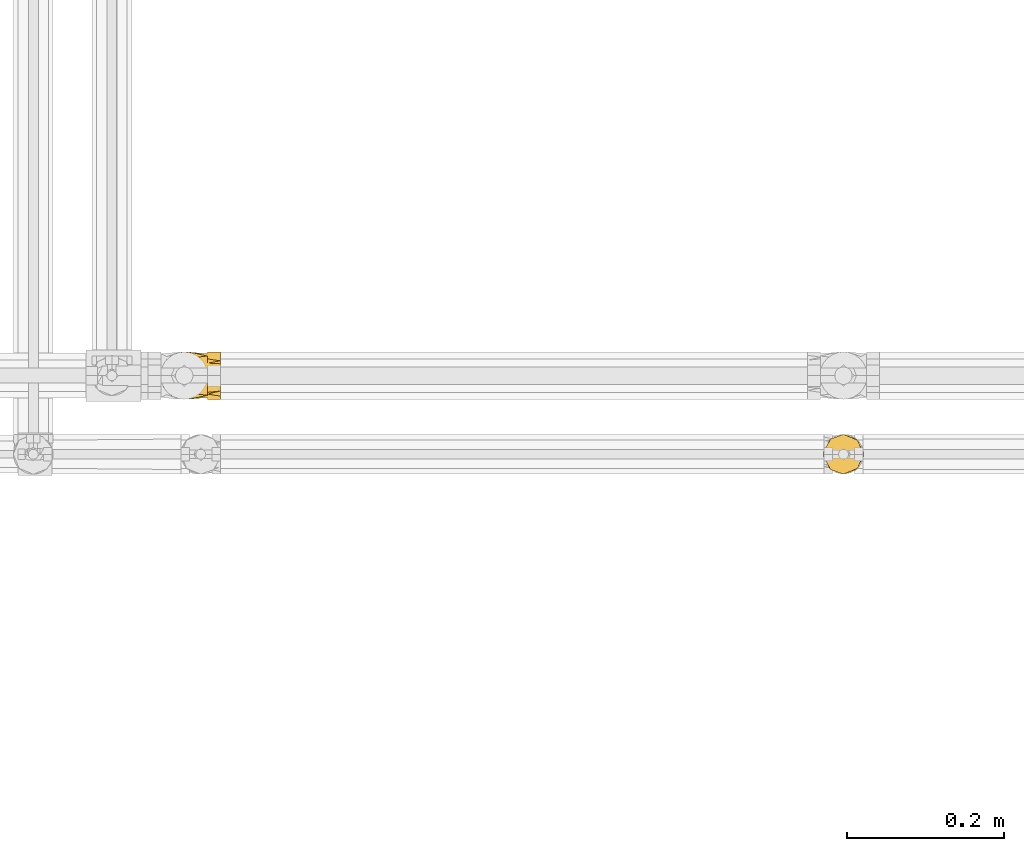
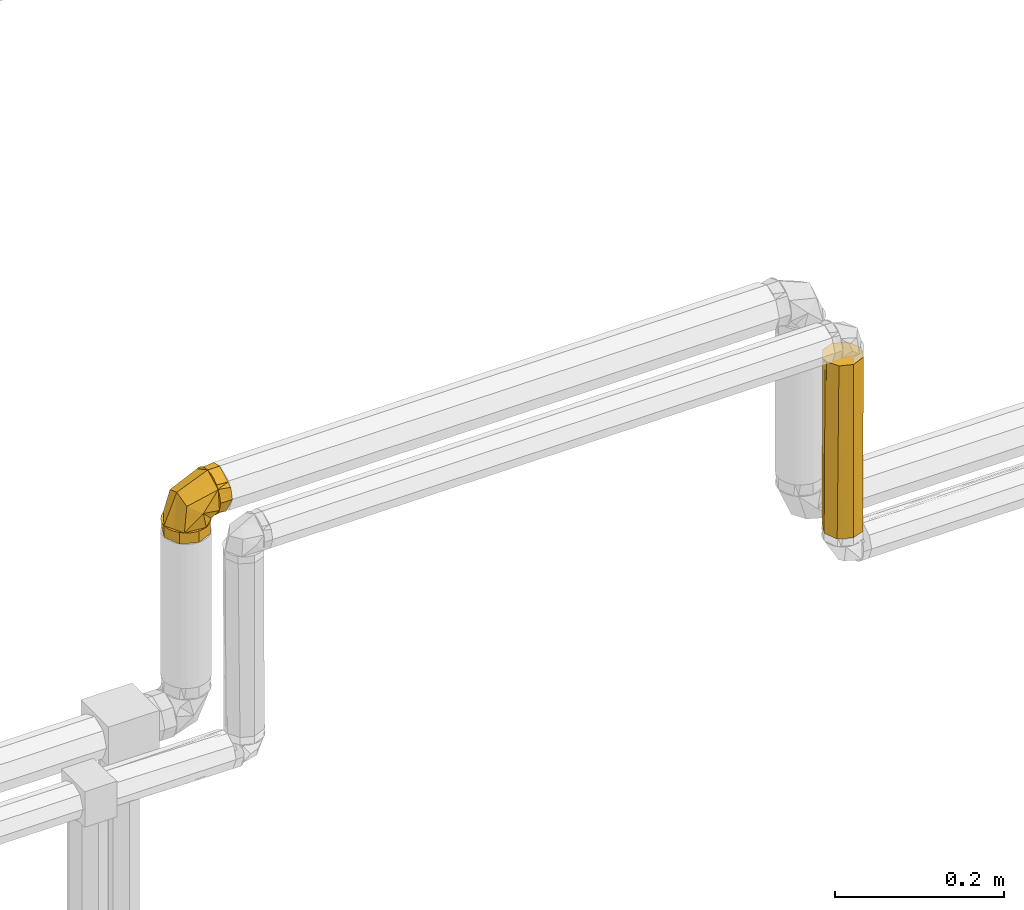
# One storey, part 206 of 652: 2 coverings.
"""IFC2X3 building model written with IfcOpenShell, lengths in millimetres."""

from ifc_helpers import new_model, entity, si_unit, converted_unit, direction, frame, origin, place, context, subcontext, project, spatial, face_set, faceted_brep, surface_model, material, type_object, element, save


model = new_model("IFC2X3")

# Units and contexts
model_context = context("Model", 3, precision=0.01, world=frame((0.0, 0.0, 308426.39999999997)), true_north=direction((6.123233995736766e-17, 1.0)))
plan_context = context("Plan", 3, precision=0.01, world=frame((0.0, 0.0, 308426.39999999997)), true_north=direction((6.123233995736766e-17, 1.0)))
body_context = subcontext(model_context, "Body", "Model", "MODEL_VIEW")
ifc_project = project(units=[si_unit("LENGTHUNIT", "METRE", prefix="MILLI"), si_unit("AREAUNIT", "SQUARE_METRE"), si_unit("VOLUMEUNIT", "CUBIC_METRE"), converted_unit("PLANEANGLEUNIT", "DEGREE", entity("IfcPlaneAngleMeasure", 0.017453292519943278), si_unit("PLANEANGLEUNIT", "RADIAN"), dimensions=[0, 0, 0, 0, 0, 0, 0])], contexts=[model_context, plan_context])

# Site, building, storey
site_placement = place(None, origin())
site = spatial("IfcSite", under=ifc_project, at=site_placement, Name="Default", CompositionType="ELEMENT")
building_placement = place(site_placement, origin())
building = spatial("IfcBuilding", under=site, at=building_placement, CompositionType="ELEMENT")
storey_placement = place(building_placement, frame((0.0, 0.0, 1730.6999999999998)))
storey = spatial("IfcBuildingStorey", under=building, at=storey_placement, Name="EG_Produktion_FFB", CompositionType="ELEMENT", Elevation=1730.6999999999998)

# Coverings
ifc_material = material(Name="Dämmung - Armaflex-Schlauch")
covering_type = type_object("IfcCoveringType", Name="Rohrdämmung außen:Armaflex-Schlauch", PredefinedType="INSULATION")
covering_1_placement = place(storey_placement, frame((38836.006477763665, 69788.05472776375, 3923.3717277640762)))
element("IfcCovering", 1, at=covering_1_placement, inside=storey, type_object=covering_type, material=ifc_material, Name="Rohrdämmung außen:Armaflex-Schlauch", ObjectType="Rohrdämmung außen:Armaflex-Schlauch", PredefinedType="INSULATION", context=body_context, shape_type="Brep", body=[
    faceted_brep([(43.25109979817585, 7.535416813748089, 1.595272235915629), (39.17464290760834, 6.05038066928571, 1.595272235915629), (35.09818601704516, 4.565344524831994, 1.595272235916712), (31.02172912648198, 3.0803083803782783, 1.595272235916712), (26.94527223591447, 1.5952722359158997, 1.595272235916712), (21.34444376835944, 3.915211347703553, 1.595272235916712), (17.982693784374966, 5.307693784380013, 1.5952722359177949), (13.501404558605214, 7.163904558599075, 1.5952722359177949), (9.020115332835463, 9.020115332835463, 1.5952722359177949), (7.1639045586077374, 13.501404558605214, 1.5952722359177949), (5.307693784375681, 17.982693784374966, 1.5952722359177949), (3.4514830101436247, 22.463983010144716, 1.5952722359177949), (1.5952722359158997, 26.94527223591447, 1.5952722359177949), (3.4514830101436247, 31.42656146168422, 1.5952722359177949), (5.307693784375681, 35.90785068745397, 1.5952722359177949), (7.1639045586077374, 40.38913991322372, 1.5952722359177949), (9.020115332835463, 44.87042913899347, 1.5952722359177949), (13.501404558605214, 46.7266399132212, 1.5952722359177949), (17.982693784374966, 48.582850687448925, 1.5952722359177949), (22.463983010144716, 50.43906146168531, 1.595272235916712), (26.94527223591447, 52.29527223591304, 1.595272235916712), (32.67227201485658, 50.20895024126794, 1.595272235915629), (38.3992717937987, 48.122628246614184, 1.595272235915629), (43.25109979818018, 46.35512765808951, 1.595272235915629), (47.58168601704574, 38.84516070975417, 1.595272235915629), (51.9122722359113, 31.33519376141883, 1.595272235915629), (51.9122722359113, 22.555350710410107, 1.595272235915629), (47.58168601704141, 15.045383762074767, 1.595272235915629), (10.639444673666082, 46.355127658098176, 251.66127223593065), (6.308858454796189, 38.84516070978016, 251.66127223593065), (1.9782722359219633, 31.335193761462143, 251.66127223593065), (1.9782722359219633, 22.555350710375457, 251.66127223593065), (6.308858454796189, 15.045383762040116, 251.66127223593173), (10.639444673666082, 7.535416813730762, 251.66127223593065), (15.491272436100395, 5.767916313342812, 251.66127223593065), (21.21827233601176, 3.681594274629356, 251.66127223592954), (26.94527223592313, 1.5952722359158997, 251.66127223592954), (31.42656146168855, 3.4514830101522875, 251.66127223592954), (35.9078506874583, 5.307693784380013, 251.66127223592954), (40.38913991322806, 7.1639045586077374, 251.66127223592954), (44.870429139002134, 9.020115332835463, 251.66127223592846), (46.72663991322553, 13.501404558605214, 251.66127223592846), (48.58285068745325, 17.982693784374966, 251.66127223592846), (50.43906146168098, 22.463983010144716, 251.66127223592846), (52.2952722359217, 26.94527223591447, 251.66127223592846), (50.43906146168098, 31.42656146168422, 251.66127223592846), (48.58285068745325, 35.90785068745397, 251.66127223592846), (46.7266399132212, 40.38913991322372, 251.66127223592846), (44.870429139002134, 44.87042913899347, 251.66127223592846), (40.38913991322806, 46.7266399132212, 251.66127223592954), (35.9078506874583, 48.582850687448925, 251.66127223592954), (31.42656146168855, 50.43906146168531, 251.66127223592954), (26.94527223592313, 52.29527223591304, 251.66127223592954), (21.218272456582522, 50.20895024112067, 251.66127223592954), (18.792358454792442, 49.32519994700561, 251.66127223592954), (14.715901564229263, 47.84016380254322, 251.66127223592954), (1.691203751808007, 24.741973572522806, 251.37420375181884), (1.5952722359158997, 26.94527223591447, 251.27827223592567), (1.691203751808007, 29.14857089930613, 251.37420375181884), (52.19934072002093, 29.148570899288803, 1.882340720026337), (52.29527223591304, 26.94527223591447, 1.9782722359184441), (52.19934072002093, 24.741973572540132, 1.882340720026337)], [[[0, 1, 2, 3, 4, 5, 6, 7, 8, 9, 10, 11, 12, 13, 14, 15, 16, 17, 18, 19, 20, 21, 22, 23, 24, 25, 26, 27]], [[28, 29, 30, 31, 32, 33, 34, 35, 36, 37, 38, 39, 40, 41, 42, 43, 44, 45, 46, 47, 48, 49, 50, 51, 52, 53, 54, 55]], [[35, 4, 36]], [[34, 6, 35]], [[35, 6, 5, 4]], [[56, 11, 31]], [[32, 31, 10]], [[33, 7, 34]], [[12, 56, 57]], [[32, 10, 9, 8]], [[11, 10, 31]], [[7, 33, 8]], [[32, 8, 33]], [[7, 6, 34]], [[11, 56, 12]], [[30, 14, 13]], [[55, 54, 53, 18]], [[13, 58, 30]], [[14, 30, 29]], [[55, 18, 17]], [[52, 20, 19]], [[18, 53, 19]], [[17, 28, 55]], [[29, 16, 15, 14]], [[58, 12, 57]], [[16, 29, 28]], [[16, 28, 17]], [[52, 19, 53]], [[12, 58, 13]], [[23, 49, 48]], [[20, 51, 21]], [[23, 22, 49]], [[45, 44, 59]], [[48, 24, 23]], [[51, 20, 52]], [[44, 60, 59]], [[22, 21, 50]], [[25, 45, 59]], [[46, 25, 24]], [[24, 48, 47, 46]], [[25, 46, 45]], [[22, 50, 49]], [[51, 50, 21]], [[43, 42, 26]], [[27, 42, 41, 40]], [[1, 38, 2]], [[44, 61, 60]], [[4, 3, 36]], [[2, 37, 3]], [[36, 3, 37]], [[38, 1, 39]], [[39, 1, 0]], [[42, 27, 26]], [[27, 40, 0]], [[61, 43, 26]], [[43, 61, 44]], [[39, 0, 40]], [[37, 2, 38]], [[26, 25, 59, 60, 61]], [[57, 56, 31, 30, 58]]]),
])
covering_2_placement = place(storey_placement, frame((37992.65291089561, 69883.29222776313, 4153.98274999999)))
element("IfcCovering", 2, at=covering_2_placement, inside=storey, type_object=covering_type, material=ifc_material, Name="Rohrdämmung außen:Armaflex-Schlauch", ObjectType="Rohrdämmung außen:Armaflex-Schlauch", PredefinedType="INSULATION", context=body_context, shape_type="SurfaceModel", body=[
    surface_model("IfcFaceBasedSurfaceModel", [(61.21227223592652, 25.687212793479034, 16.51275000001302), (58.870538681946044, 18.70981950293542, 16.51275000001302), (54.906169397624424, 12.508891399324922, 16.51275000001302), (49.555985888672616, 7.4548564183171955, 16.512750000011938), (43.13959473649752, 3.8496299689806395, 16.512750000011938), (36.0402951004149, 1.9085792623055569, 16.512750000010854), (28.6821813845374, 1.7476578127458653, 16.512750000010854), (21.5048088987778, 3.37647866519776, 16.51275000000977), (14.936935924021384, 6.697740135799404, 16.51275000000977), (9.370910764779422, 11.513038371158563, 16.512750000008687), (5.139233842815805, 17.53471949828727, 16.512750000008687), (2.4946949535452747, 24.40306334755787, 16.512750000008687), (1.5952722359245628, 31.70777223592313, 16.512750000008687), (2.4946949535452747, 39.01248112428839, 16.512750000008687), (5.139233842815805, 45.880824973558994, 16.512750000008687), (9.370910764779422, 51.902506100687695, 16.512750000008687), (14.936935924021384, 56.71780433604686, 16.51275000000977), (21.5048088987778, 60.0390658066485, 16.51275000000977), (28.6821813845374, 61.6678866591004, 16.512750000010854), (36.0402951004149, 61.50696520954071, 16.512750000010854), (43.13959473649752, 59.565914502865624, 16.512750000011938), (49.555985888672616, 55.96068805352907, 16.512750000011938), (54.906169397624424, 50.906653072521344, 16.51275000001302), (58.870538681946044, 44.70572496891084, 16.51275000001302), (61.21227223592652, 37.728331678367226, 16.51275000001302), (61.21227223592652, 18.70981950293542, 18.85448355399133), (61.21227223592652, 12.508891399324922, 22.81885283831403), (61.21227223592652, 7.4548564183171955, 28.169036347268), (61.21227223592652, 3.8496299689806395, 34.58542749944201), (61.21227223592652, 1.9085792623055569, 41.68472713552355), (61.212272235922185, 1.7476578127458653, 49.04284085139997), (61.212272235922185, 3.37647866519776, 56.22021333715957), (61.212272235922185, 6.697740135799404, 62.78808631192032), (61.212272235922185, 11.513038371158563, 68.35411147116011), (61.212272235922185, 17.53471949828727, 72.58578839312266), (61.212272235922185, 24.40306334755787, 75.2303272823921), (61.212272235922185, 31.70777223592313, 76.1297500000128), (61.212272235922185, 39.01248112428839, 75.2303272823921), (61.212272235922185, 45.880824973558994, 72.58578839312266), (61.212272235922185, 51.902506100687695, 68.35411147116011), (61.212272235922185, 56.71780433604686, 62.78808631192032), (61.212272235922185, 60.0390658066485, 56.22021333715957), (61.212272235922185, 61.6678866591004, 49.04284085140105), (61.21227223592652, 61.50696520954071, 41.68472713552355), (61.21227223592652, 59.565914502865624, 34.58542749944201), (61.21227223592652, 55.96068805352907, 28.169036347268), (61.21227223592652, 50.906653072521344, 22.81885283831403), (61.21227223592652, 44.70572496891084, 18.85448355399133), (52.317889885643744, 7.534737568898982, 23.87752832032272), (61.21269579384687, 14.966842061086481, 25.38325036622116), (52.341144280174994, 14.966842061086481, 16.512861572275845), (21.25466967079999, 11.613558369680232, 49.68351129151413), (8.14384203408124, 19.43168581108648, 16.512861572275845), (38.209448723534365, 1.7490442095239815, 39.514945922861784), (61.21269579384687, 5.274410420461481, 48.686479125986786), (19.057129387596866, 31.71000612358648, 58.66842797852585), (61.21269579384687, 19.203792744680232, 69.45904840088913), (29.037915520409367, 5.274410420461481, 16.512861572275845), (52.317889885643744, 55.88062379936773, 23.87752832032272), (52.341144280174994, 48.448519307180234, 16.512861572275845), (21.25466967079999, 51.80180299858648, 49.68351129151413), (8.14384203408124, 43.983675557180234, 16.512861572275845), (61.21269579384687, 48.64850710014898, 25.548937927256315), (38.209448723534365, 61.666317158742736, 39.514945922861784), (61.21269579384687, 44.21156862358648, 69.45904840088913), (29.037915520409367, 58.14095094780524, 16.512861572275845), (61.21269579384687, 58.14095094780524, 48.686479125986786), (1.5952722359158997, 31.70777223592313, 0.0), (4.438064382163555, 38.57087959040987, 0.0), (6.005145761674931, 42.35414871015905, 0.0), (8.210082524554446, 47.677336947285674, 0.0), (10.415019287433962, 53.000525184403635, 0.0), (15.738207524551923, 55.205461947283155, 0.0), (21.061395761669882, 57.410398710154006, 0.0), (26.384583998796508, 59.61533547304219, 0.0), (31.70777223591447, 61.82027223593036, 0.0), (38.5708795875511, 58.97748009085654, 0.0), (42.35414871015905, 57.410398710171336, 0.0), (47.67733694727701, 55.205461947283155, 0.0), (53.000525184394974, 53.000525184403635, 0.0), (55.20546194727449, 47.677336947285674, 0.0), (57.410398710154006, 42.35414871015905, 0.0), (59.61533547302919, 37.03096047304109, 0.0), (61.82027223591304, 31.70777223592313, 0.0), (58.97748009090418, 24.84466488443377, 0.0), (57.410398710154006, 21.06139576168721, 0.0), (55.20546194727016, 15.738207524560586, 0.0), (53.000525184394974, 10.415019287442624, 0.0), (47.67733694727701, 8.210082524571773, 0.0), (42.354148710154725, 6.005145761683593, 0.0), (37.030960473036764, 3.800208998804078, 0.0), (31.70777223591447, 1.5952722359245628, 0.0), (24.844664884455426, 4.438064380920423, 0.0), (21.061395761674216, 6.005145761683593, 0.0), (15.738207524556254, 8.21008252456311, 0.0), (10.415019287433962, 10.415019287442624, 0.0), (8.210082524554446, 15.738207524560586, 0.0), (6.005145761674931, 21.06139576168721, 0.0), (3.8002089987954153, 26.384583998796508, 0.0), (31.7077722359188, 61.82027223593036, 16.512750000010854), (26.38458399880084, 59.61533547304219, 16.51275000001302), (21.061395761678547, 57.410398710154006, 16.5127500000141), (15.738207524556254, 55.205461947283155, 16.51275000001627), (10.415019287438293, 53.000525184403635, 16.512750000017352), (7.280856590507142, 45.433987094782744, 16.512750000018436), (4.438064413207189, 38.57087966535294, 16.512750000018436), (1.5952722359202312, 31.70777223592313, 16.512750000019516), (3.8002089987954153, 26.38458399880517, 16.512750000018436), (6.005145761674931, 21.06139576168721, 16.512750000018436), (8.210082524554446, 15.738207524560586, 16.512750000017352), (10.415019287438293, 10.415019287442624, 16.512750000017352), (17.981557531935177, 7.280856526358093, 16.512750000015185), (24.84466488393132, 4.43806438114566, 16.51275000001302), (31.7077722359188, 1.5952722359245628, 16.512750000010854), (37.03096047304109, 3.800208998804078, 16.51275000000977), (42.35414871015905, 6.005145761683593, 16.512750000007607), (47.677336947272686, 8.210082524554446, 16.51275000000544), (53.00052518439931, 10.415019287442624, 16.512750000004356), (56.13468794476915, 17.981557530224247, 16.512750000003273), (58.97748009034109, 24.844664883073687, 16.512750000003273), (61.82027223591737, 31.70777223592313, 16.512750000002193), (59.615335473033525, 37.03096047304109, 16.512750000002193), (57.410398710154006, 42.35414871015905, 16.512750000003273), (55.20546194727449, 47.677336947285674, 16.512750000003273), (53.00052518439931, 53.000525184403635, 16.512750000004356), (45.43398694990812, 56.13468794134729, 16.512750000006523), (38.57087959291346, 58.9774800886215, 16.512750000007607), (77.72502223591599, 31.70777223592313, 76.1297500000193), (77.72502223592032, 25.18822474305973, 72.36568750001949), (77.72502223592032, 18.668677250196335, 68.60162500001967), (77.72502223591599, 12.149129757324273, 64.83756250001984), (77.72502223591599, 5.629582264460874, 61.07350000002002), (77.72502223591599, 3.6124272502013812, 53.54537500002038), (77.72502223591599, 1.5952722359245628, 46.01725000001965), (77.72502223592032, 5.359334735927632, 39.497702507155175), (77.72502223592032, 9.12339723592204, 32.97815501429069), (77.72502223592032, 12.887459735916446, 26.458607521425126), (77.72502223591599, 16.651522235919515, 19.939060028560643), (77.72502223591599, 24.179647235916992, 17.921905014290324), (77.72502223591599, 31.70777223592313, 15.904750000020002), (77.72502223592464, 38.22731972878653, 19.668812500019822), (77.72502223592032, 44.74686722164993, 23.432875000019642), (77.72502223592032, 51.26641471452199, 27.196937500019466), (77.72502223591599, 57.78596220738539, 30.961000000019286), (77.72502223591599, 59.803117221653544, 38.48912500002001), (77.72502223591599, 61.8202722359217, 46.01725000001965), (77.72502223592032, 58.0562097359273, 52.53679749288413), (77.72502223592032, 54.292147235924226, 59.056344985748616), (77.72502223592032, 50.528084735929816, 65.57589247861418), (77.72502223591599, 46.764022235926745, 72.09543997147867), (77.72502223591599, 39.23589723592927, 74.11259498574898), (61.21227223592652, 31.70777223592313, 76.1297500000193), (61.21227223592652, 37.03096047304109, 73.92481323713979), (61.21227223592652, 42.35414871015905, 71.7198764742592), (61.212272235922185, 47.677336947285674, 69.51493971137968), (61.21227223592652, 53.000525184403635, 67.31000294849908), (61.21227223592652, 55.205461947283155, 61.98681471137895), (61.21227223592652, 57.41039871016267, 56.66362647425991), (61.212272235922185, 59.615335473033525, 51.34043823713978), (61.21227223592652, 61.8202722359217, 46.01725000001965), (61.21227223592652, 59.61533547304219, 40.69406176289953), (61.21227223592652, 57.41039871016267, 35.3708735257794), (61.21227223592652, 55.205461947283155, 30.047685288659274), (61.21227223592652, 53.000525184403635, 24.724497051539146), (61.21227223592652, 47.677336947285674, 22.51956028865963), (61.21227223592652, 42.35414871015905, 20.314623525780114), (61.21227223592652, 37.03096047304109, 18.1096867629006), (61.21227223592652, 31.70777223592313, 15.904750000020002), (61.21227223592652, 26.384583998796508, 18.1096867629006), (61.21227223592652, 21.06139576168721, 20.314623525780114), (61.21227223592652, 15.738207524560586, 22.51956028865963), (61.21227223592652, 10.415019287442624, 24.724497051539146), (61.21227223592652, 8.21008252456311, 30.047685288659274), (61.21227223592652, 6.005145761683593, 35.3708735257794), (61.21227223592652, 3.800208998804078, 40.69406176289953), (61.21227223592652, 1.5952722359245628, 46.01725000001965), (61.21227223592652, 3.800208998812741, 51.34043823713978), (61.21227223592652, 6.005145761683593, 56.66362647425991), (61.212272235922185, 8.21008252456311, 61.986814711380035), (61.21227223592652, 10.415019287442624, 67.31000294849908), (61.21227223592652, 15.738207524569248, 69.51493971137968), (61.21227223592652, 21.06139576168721, 71.7198764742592), (61.21227223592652, 26.38458399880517, 73.92481323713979)], [face_set([[[0, 1, 2, 3, 4, 5, 6, 7, 8, 9, 10, 11, 12, 13, 14, 15, 16, 17, 18, 19, 20, 21, 22, 23]], [[24, 25, 26, 27, 28, 29, 30, 31, 32, 33, 34, 35, 36, 37, 38, 39, 40, 41, 42, 43, 44, 45, 46, 47]], [[48, 0, 49]], [[50, 48, 4]], [[51, 52, 8]], [[51, 8, 53]], [[53, 28, 54]], [[48, 49, 28]], [[32, 51, 53]], [[55, 51, 56]], [[57, 4, 53, 8]], [[56, 36, 55]], [[55, 52, 51]], [[48, 50, 0]], [[55, 12, 52]], [[4, 48, 53]], [[28, 53, 48]], [[54, 32, 53]], [[51, 32, 56]], [[58, 59, 20]], [[60, 61, 55]], [[24, 58, 62]], [[58, 20, 63]], [[16, 60, 63]], [[55, 64, 60]], [[24, 59, 58]], [[65, 16, 63, 20]], [[44, 58, 63]], [[58, 44, 62]], [[61, 60, 16]], [[61, 12, 55]], [[63, 40, 66]], [[40, 63, 60]], [[66, 44, 63]], [[64, 55, 36]], [[64, 40, 60]]]), face_set([[[67, 68, 69, 70, 71, 72, 73, 74, 75, 76, 77, 78, 79, 80, 81, 82, 83, 84, 85, 86, 87, 88, 89, 90, 91, 92, 93, 94, 95, 96, 97, 98]], [[99, 100, 101, 102, 103, 104, 105, 106, 107, 108, 109, 110, 111, 112, 113, 114, 115, 116, 117, 118, 119, 120, 121, 122, 123, 124, 125, 126]], [[105, 104, 103, 71, 70, 69, 68, 67, 106]], [[71, 103, 102, 101, 100, 99, 75, 74, 73, 72]], [[126, 125, 124, 79, 78, 77, 76, 75, 99]], [[79, 124, 123, 122, 121, 120, 83, 82, 81, 80]], [[119, 118, 117, 87, 86, 85, 84, 83, 120]], [[87, 117, 116, 115, 114, 113, 91, 90, 89, 88]], [[112, 111, 110, 95, 94, 93, 92, 91, 113]], [[95, 110, 109, 108, 107, 106, 67, 98, 97, 96]]]), face_set([[[127, 128, 129, 130, 131, 132, 133, 134, 135, 136, 137, 138, 139, 140, 141, 142, 143, 144, 145, 146, 147, 148, 149, 150]], [[151, 152, 153, 154, 155, 156, 157, 158, 159, 160, 161, 162, 163, 164, 165, 166, 167, 168, 169, 170, 171, 172, 173, 174, 175, 176, 177, 178, 179, 180, 181, 182]], [[170, 136, 171]], [[133, 174, 134]], [[174, 173, 134]], [[138, 169, 168]], [[168, 167, 139]], [[136, 170, 137]], [[135, 173, 172]], [[133, 175, 174]], [[173, 135, 134]], [[139, 138, 168]], [[172, 171, 136]], [[170, 169, 137]], [[138, 137, 169]], [[135, 172, 136]], [[178, 130, 179]], [[127, 182, 128]], [[182, 181, 128]], [[132, 177, 176]], [[176, 175, 133]], [[130, 178, 131]], [[129, 181, 180]], [[127, 151, 182]], [[181, 129, 128]], [[133, 132, 176]], [[180, 179, 130]], [[178, 177, 131]], [[132, 131, 177]], [[129, 180, 130]], [[154, 148, 155]], [[145, 158, 146]], [[158, 157, 146]], [[150, 153, 152]], [[152, 151, 127]], [[148, 154, 149]], [[147, 157, 156]], [[145, 159, 158]], [[157, 147, 146]], [[127, 150, 152]], [[156, 155, 148]], [[154, 153, 149]], [[150, 149, 153]], [[147, 156, 148]], [[162, 142, 163]], [[139, 166, 140]], [[166, 165, 140]], [[144, 161, 160]], [[160, 159, 145]], [[142, 162, 143]], [[141, 165, 164]], [[139, 167, 166]], [[165, 141, 140]], [[145, 144, 160]], [[164, 163, 142]], [[162, 161, 143]], [[144, 143, 161]], [[141, 164, 142]]])]),
])

save(model, "model.ifc")
